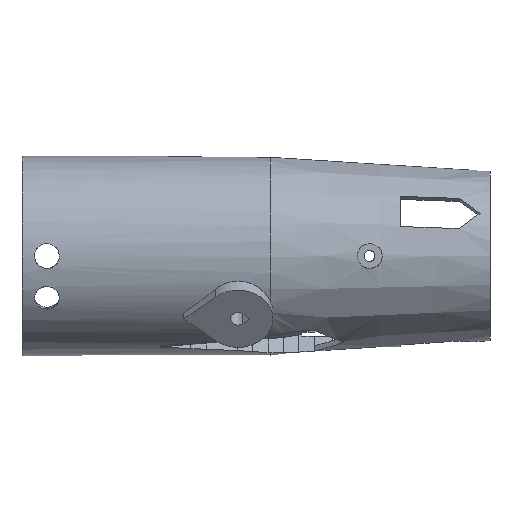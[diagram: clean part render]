
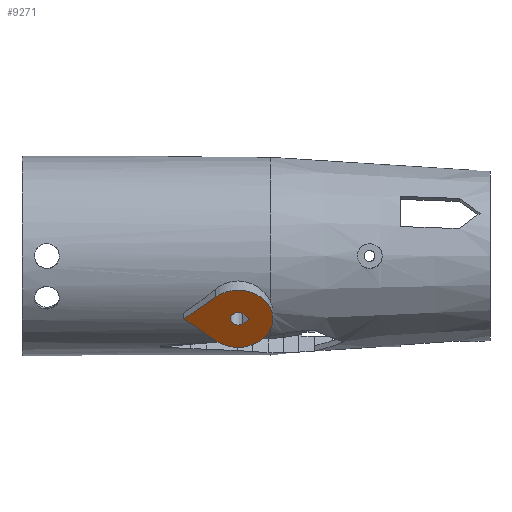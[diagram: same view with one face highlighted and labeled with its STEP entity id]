
A CAD part, front view. The second image highlights one B-rep face of the part: STEP entity #9271.
In plain terms, the highlighted planar face has unit normal (0, -0.819, -0.574).
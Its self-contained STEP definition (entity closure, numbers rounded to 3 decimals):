
#2101 = CYLINDRICAL_SURFACE('',#2102,7.);
#2102 = AXIS2_PLACEMENT_3D('',#2103,#2104,#2105);
#2103 = CARTESIAN_POINT('',(393.4,-9.83,-6.883));
#2104 = DIRECTION('',(-0.,-0.819,-0.574));
#2105 = DIRECTION('',(-0.,-0.574,0.819));
#2172 = PLANE('',#2173);
#2173 = AXIS2_PLACEMENT_3D('',#2174,#2175,#2176);
#2174 = CARTESIAN_POINT('',(388.9,-6.754,
    -11.275));
#2175 = DIRECTION('',(0.643,-0.439,0.628));
#2176 = DIRECTION('',(0.766,0.369,-0.527));
#2204 = PLANE('',#2205);
#2205 = AXIS2_PLACEMENT_3D('',#2206,#2207,#2208);
#2206 = CARTESIAN_POINT('',(382.51,-9.83,
    -6.883));
#2207 = DIRECTION('',(0.643,0.439,-0.628));
#2208 = DIRECTION('',(-0.766,0.369,-0.527));
#9134 = CYLINDRICAL_SURFACE('',#9135,1.525);
#9135 = AXIS2_PLACEMENT_3D('',#9136,#9137,#9138);
#9136 = CARTESIAN_POINT('',(393.4,-4.096,-2.868));
#9137 = DIRECTION('',(-0.,-0.819,-0.574));
#9138 = DIRECTION('',(-0.,-0.574,0.819));
#9162 = PLANE('',#9163);
#9163 = AXIS2_PLACEMENT_3D('',#9164,#9165,#9166);
#9164 = CARTESIAN_POINT('',(394.38,-3.426,
    -3.825));
#9165 = DIRECTION('',(0.643,0.439,-0.628));
#9166 = DIRECTION('',(-0.766,0.369,-0.527));
#9187 = PLANE('',#9188);
#9188 = AXIS2_PLACEMENT_3D('',#9189,#9190,#9191);
#9189 = CARTESIAN_POINT('',(395.772,-4.096,
    -2.868));
#9190 = DIRECTION('',(0.643,-0.439,0.628));
#9191 = DIRECTION('',(0.766,0.369,-0.527));
#9203 = VERTEX_POINT('',#9204);
#9204 = CARTESIAN_POINT('',(395.772,-18.021,
    -12.619));
#9225 = EDGE_CURVE('',#9203,#9226,#9228,.T.);
#9226 = VERTEX_POINT('',#9227);
#9227 = CARTESIAN_POINT('',(394.38,-18.691,
    -11.662));
#9228 = SURFACE_CURVE('',#9229,(#9233,#9239),.PCURVE_S1.);
#9229 = LINE('',#9230,#9231);
#9230 = CARTESIAN_POINT('',(395.076,-18.356,
    -12.14));
#9231 = VECTOR('',#9232,1.);
#9232 = DIRECTION('',(-0.766,-0.369,0.527));
#9233 = PCURVE('',#9187,#9234);
#9234 = DEFINITIONAL_REPRESENTATION('',(#9235),#9238);
#9235 = B_SPLINE_CURVE_WITH_KNOTS('',1,(#9236,#9237),.UNSPECIFIED.,.F.,
  .F.,(2,2),(-0.909,0.909),.PIECEWISE_BEZIER_KNOTS.);
#9236 = CARTESIAN_POINT('',(0.,-17.));
#9237 = CARTESIAN_POINT('',(-1.817,-17.));
#9238 = ( GEOMETRIC_REPRESENTATION_CONTEXT(2) 
PARAMETRIC_REPRESENTATION_CONTEXT() REPRESENTATION_CONTEXT('2D SPACE',''
  ) );
#9239 = PCURVE('',#9240,#9245);
#9240 = PLANE('',#9241);
#9241 = AXIS2_PLACEMENT_3D('',#9242,#9243,#9244);
#9242 = CARTESIAN_POINT('',(393.4,-18.021,-12.619));
#9243 = DIRECTION('',(-0.,-0.819,-0.574));
#9244 = DIRECTION('',(0.,0.574,-0.819));
#9245 = DEFINITIONAL_REPRESENTATION('',(#9246),#9250);
#9246 = LINE('',#9247,#9248);
#9247 = CARTESIAN_POINT('',(-0.584,1.676));
#9248 = VECTOR('',#9249,1.);
#9249 = DIRECTION('',(-0.643,-0.766));
#9250 = ( GEOMETRIC_REPRESENTATION_CONTEXT(2) 
PARAMETRIC_REPRESENTATION_CONTEXT() REPRESENTATION_CONTEXT('2D SPACE',''
  ) );
#9271 = ADVANCED_FACE('',(#9272,#9348),#9240,.T.);
#9272 = FACE_BOUND('',#9273,.F.);
#9273 = EDGE_LOOP('',(#9274,#9304,#9327));
#9274 = ORIENTED_EDGE('',*,*,#9275,.T.);
#9275 = EDGE_CURVE('',#9276,#9278,#9280,.T.);
#9276 = VERTEX_POINT('',#9277);
#9277 = CARTESIAN_POINT('',(388.9,-21.097,
    -8.226));
#9278 = VERTEX_POINT('',#9279);
#9279 = CARTESIAN_POINT('',(388.9,-14.946,
    -17.011));
#9280 = SURFACE_CURVE('',#9281,(#9286,#9297),.PCURVE_S1.);
#9281 = CIRCLE('',#9282,7.);
#9282 = AXIS2_PLACEMENT_3D('',#9283,#9284,#9285);
#9283 = CARTESIAN_POINT('',(393.4,-18.021,-12.619));
#9284 = DIRECTION('',(0.,0.819,0.574));
#9285 = DIRECTION('',(-0.643,-0.439,0.628));
#9286 = PCURVE('',#9240,#9287);
#9287 = DEFINITIONAL_REPRESENTATION('',(#9288),#9296);
#9288 = ( BOUNDED_CURVE() B_SPLINE_CURVE(2,(#9289,#9290,#9291,#9292,
#9293,#9294,#9295),.UNSPECIFIED.,.T.,.F.) B_SPLINE_CURVE_WITH_KNOTS((1,2
    ,2,2,2,1),(-2.094,0.,2.094,4.189,
6.283,8.378),.UNSPECIFIED.) CURVE() 
GEOMETRIC_REPRESENTATION_ITEM() RATIONAL_B_SPLINE_CURVE((1.,0.5,1.,0.5,
1.,0.5,1.)) REPRESENTATION_ITEM('') );
#9289 = CARTESIAN_POINT('',(-5.362,-4.5));
#9290 = CARTESIAN_POINT('',(-13.156,4.788));
#9291 = CARTESIAN_POINT('',(-1.216,6.894));
#9292 = CARTESIAN_POINT('',(10.725,8.999));
#9293 = CARTESIAN_POINT('',(6.578,-2.394));
#9294 = CARTESIAN_POINT('',(2.431,-13.787));
#9295 = CARTESIAN_POINT('',(-5.362,-4.5));
#9296 = ( GEOMETRIC_REPRESENTATION_CONTEXT(2) 
PARAMETRIC_REPRESENTATION_CONTEXT() REPRESENTATION_CONTEXT('2D SPACE',''
  ) );
#9297 = PCURVE('',#2101,#9298);
#9298 = DEFINITIONAL_REPRESENTATION('',(#9299),#9303);
#9299 = LINE('',#9300,#9301);
#9300 = CARTESIAN_POINT('',(-5.585,10.));
#9301 = VECTOR('',#9302,1.);
#9302 = DIRECTION('',(-1.,0.));
#9303 = ( GEOMETRIC_REPRESENTATION_CONTEXT(2) 
PARAMETRIC_REPRESENTATION_CONTEXT() REPRESENTATION_CONTEXT('2D SPACE',''
  ) );
#9304 = ORIENTED_EDGE('',*,*,#9305,.T.);
#9305 = EDGE_CURVE('',#9278,#9306,#9308,.T.);
#9306 = VERTEX_POINT('',#9307);
#9307 = CARTESIAN_POINT('',(382.51,-18.021,
    -12.619));
#9308 = SURFACE_CURVE('',#9309,(#9313,#9320),.PCURVE_S1.);
#9309 = LINE('',#9310,#9311);
#9310 = CARTESIAN_POINT('',(388.9,-14.946,
    -17.011));
#9311 = VECTOR('',#9312,1.);
#9312 = DIRECTION('',(-0.766,-0.369,0.527));
#9313 = PCURVE('',#9240,#9314);
#9314 = DEFINITIONAL_REPRESENTATION('',(#9315),#9319);
#9315 = LINE('',#9316,#9317);
#9316 = CARTESIAN_POINT('',(5.362,-4.5));
#9317 = VECTOR('',#9318,1.);
#9318 = DIRECTION('',(-0.643,-0.766));
#9319 = ( GEOMETRIC_REPRESENTATION_CONTEXT(2) 
PARAMETRIC_REPRESENTATION_CONTEXT() REPRESENTATION_CONTEXT('2D SPACE',''
  ) );
#9320 = PCURVE('',#2172,#9321);
#9321 = DEFINITIONAL_REPRESENTATION('',(#9322),#9326);
#9322 = LINE('',#9323,#9324);
#9323 = CARTESIAN_POINT('',(0.,-10.));
#9324 = VECTOR('',#9325,1.);
#9325 = DIRECTION('',(-1.,0.));
#9326 = ( GEOMETRIC_REPRESENTATION_CONTEXT(2) 
PARAMETRIC_REPRESENTATION_CONTEXT() REPRESENTATION_CONTEXT('2D SPACE',''
  ) );
#9327 = ORIENTED_EDGE('',*,*,#9328,.T.);
#9328 = EDGE_CURVE('',#9306,#9276,#9329,.T.);
#9329 = SURFACE_CURVE('',#9330,(#9334,#9341),.PCURVE_S1.);
#9330 = LINE('',#9331,#9332);
#9331 = CARTESIAN_POINT('',(382.51,-18.021,
    -12.619));
#9332 = VECTOR('',#9333,1.);
#9333 = DIRECTION('',(0.766,-0.369,0.527));
#9334 = PCURVE('',#9240,#9335);
#9335 = DEFINITIONAL_REPRESENTATION('',(#9336),#9340);
#9336 = LINE('',#9337,#9338);
#9337 = CARTESIAN_POINT('',(-0.,-10.89));
#9338 = VECTOR('',#9339,1.);
#9339 = DIRECTION('',(-0.643,0.766));
#9340 = ( GEOMETRIC_REPRESENTATION_CONTEXT(2) 
PARAMETRIC_REPRESENTATION_CONTEXT() REPRESENTATION_CONTEXT('2D SPACE',''
  ) );
#9341 = PCURVE('',#2204,#9342);
#9342 = DEFINITIONAL_REPRESENTATION('',(#9343),#9347);
#9343 = LINE('',#9344,#9345);
#9344 = CARTESIAN_POINT('',(0.,-10.));
#9345 = VECTOR('',#9346,1.);
#9346 = DIRECTION('',(-1.,0.));
#9347 = ( GEOMETRIC_REPRESENTATION_CONTEXT(2) 
PARAMETRIC_REPRESENTATION_CONTEXT() REPRESENTATION_CONTEXT('2D SPACE',''
  ) );
#9348 = FACE_BOUND('',#9349,.F.);
#9349 = EDGE_LOOP('',(#9350,#9378,#9398));
#9350 = ORIENTED_EDGE('',*,*,#9351,.F.);
#9351 = EDGE_CURVE('',#9352,#9226,#9354,.T.);
#9352 = VERTEX_POINT('',#9353);
#9353 = CARTESIAN_POINT('',(394.38,-17.351,
    -13.576));
#9354 = SURFACE_CURVE('',#9355,(#9360,#9371),.PCURVE_S1.);
#9355 = CIRCLE('',#9356,1.525);
#9356 = AXIS2_PLACEMENT_3D('',#9357,#9358,#9359);
#9357 = CARTESIAN_POINT('',(393.4,-18.021,-12.619));
#9358 = DIRECTION('',(0.,0.819,0.574)
  );
#9359 = DIRECTION('',(0.643,0.439,-0.628));
#9360 = PCURVE('',#9240,#9361);
#9361 = DEFINITIONAL_REPRESENTATION('',(#9362),#9370);
#9362 = ( BOUNDED_CURVE() B_SPLINE_CURVE(2,(#9363,#9364,#9365,#9366,
#9367,#9368,#9369),.UNSPECIFIED.,.T.,.F.) B_SPLINE_CURVE_WITH_KNOTS((1,2
    ,2,2,2,1),(-2.094,0.,2.094,4.189,
6.283,8.378),.UNSPECIFIED.) CURVE() 
GEOMETRIC_REPRESENTATION_ITEM() RATIONAL_B_SPLINE_CURVE((1.,0.5,1.,0.5,
1.,0.5,1.)) REPRESENTATION_ITEM('') );
#9363 = CARTESIAN_POINT('',(1.168,0.98));
#9364 = CARTESIAN_POINT('',(2.866,-1.043));
#9365 = CARTESIAN_POINT('',(0.265,-1.502));
#9366 = CARTESIAN_POINT('',(-2.336,-1.961));
#9367 = CARTESIAN_POINT('',(-1.433,0.522));
#9368 = CARTESIAN_POINT('',(-0.53,3.004));
#9369 = CARTESIAN_POINT('',(1.168,0.98));
#9370 = ( GEOMETRIC_REPRESENTATION_CONTEXT(2) 
PARAMETRIC_REPRESENTATION_CONTEXT() REPRESENTATION_CONTEXT('2D SPACE',''
  ) );
#9371 = PCURVE('',#9134,#9372);
#9372 = DEFINITIONAL_REPRESENTATION('',(#9373),#9377);
#9373 = LINE('',#9374,#9375);
#9374 = CARTESIAN_POINT('',(-2.443,17.));
#9375 = VECTOR('',#9376,1.);
#9376 = DIRECTION('',(-1.,-0.));
#9377 = ( GEOMETRIC_REPRESENTATION_CONTEXT(2) 
PARAMETRIC_REPRESENTATION_CONTEXT() REPRESENTATION_CONTEXT('2D SPACE',''
  ) );
#9378 = ORIENTED_EDGE('',*,*,#9379,.T.);
#9379 = EDGE_CURVE('',#9352,#9203,#9380,.T.);
#9380 = SURFACE_CURVE('',#9381,(#9385,#9392),.PCURVE_S1.);
#9381 = LINE('',#9382,#9383);
#9382 = CARTESIAN_POINT('',(394.38,-17.351,
    -13.576));
#9383 = VECTOR('',#9384,1.);
#9384 = DIRECTION('',(0.766,-0.369,0.527));
#9385 = PCURVE('',#9240,#9386);
#9386 = DEFINITIONAL_REPRESENTATION('',(#9387),#9391);
#9387 = LINE('',#9388,#9389);
#9388 = CARTESIAN_POINT('',(1.168,0.98));
#9389 = VECTOR('',#9390,1.);
#9390 = DIRECTION('',(-0.643,0.766));
#9391 = ( GEOMETRIC_REPRESENTATION_CONTEXT(2) 
PARAMETRIC_REPRESENTATION_CONTEXT() REPRESENTATION_CONTEXT('2D SPACE',''
  ) );
#9392 = PCURVE('',#9162,#9393);
#9393 = DEFINITIONAL_REPRESENTATION('',(#9394),#9397);
#9394 = B_SPLINE_CURVE_WITH_KNOTS('',1,(#9395,#9396),.UNSPECIFIED.,.F.,
  .F.,(2,2),(0.,1.817),
  .PIECEWISE_BEZIER_KNOTS.);
#9395 = CARTESIAN_POINT('',(0.,-17.));
#9396 = CARTESIAN_POINT('',(-1.817,-17.));
#9397 = ( GEOMETRIC_REPRESENTATION_CONTEXT(2) 
PARAMETRIC_REPRESENTATION_CONTEXT() REPRESENTATION_CONTEXT('2D SPACE',''
  ) );
#9398 = ORIENTED_EDGE('',*,*,#9225,.T.);
